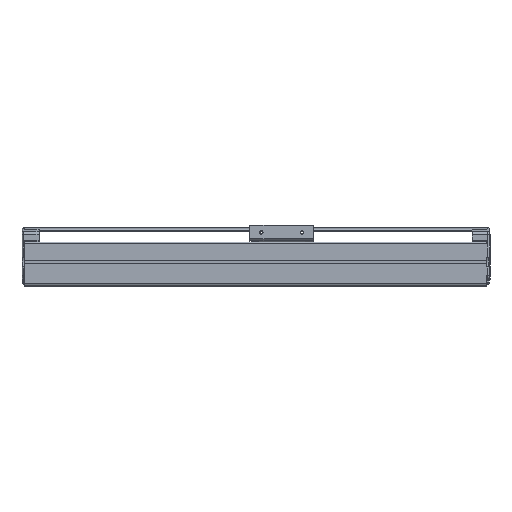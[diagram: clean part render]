
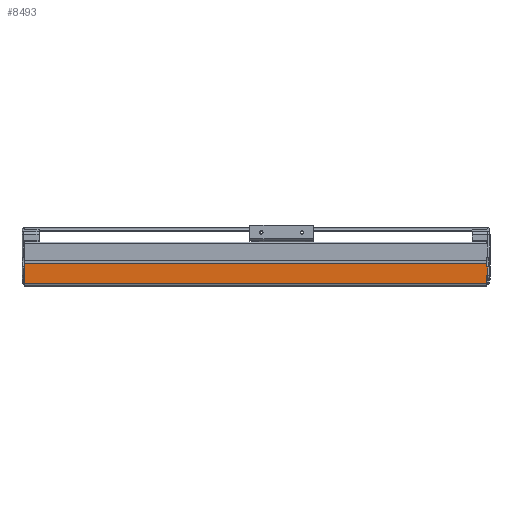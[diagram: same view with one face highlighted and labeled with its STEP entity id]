
A CAD part, top view. The second image highlights one B-rep face of the part: STEP entity #8493.
In plain terms, the highlighted planar face has unit normal (0, 0, 1).
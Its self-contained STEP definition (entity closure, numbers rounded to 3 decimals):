
#911=DIRECTION('',(0.,1.,0.));
#912=VECTOR('',#911,11.);
#913=CARTESIAN_POINT('',(569.,14.,39.));
#914=LINE('',#913,#912);
#930=DIRECTION('',(1.,0.,0.));
#931=VECTOR('',#930,1.);
#932=CARTESIAN_POINT('',(568.,14.,39.));
#933=LINE('',#932,#931);
#938=DIRECTION('',(0.,1.,0.));
#939=VECTOR('',#938,3.9);
#940=CARTESIAN_POINT('',(568.,25.,39.));
#941=LINE('',#940,#939);
#942=DIRECTION('',(0.,1.,0.));
#943=VECTOR('',#942,9.5);
#944=CARTESIAN_POINT('',(568.,4.5,39.));
#945=LINE('',#944,#943);
#946=DIRECTION('',(0.,-1.,0.));
#947=VECTOR('',#946,24.4);
#948=CARTESIAN_POINT('',(0.,28.9,39.));
#949=LINE('',#948,#947);
#959=DIRECTION('',(-1.,0.,0.));
#960=VECTOR('',#959,1.);
#961=CARTESIAN_POINT('',(569.,25.,39.));
#962=LINE('',#961,#960);
#984=DIRECTION('',(1.,0.,0.));
#985=VECTOR('',#984,568.);
#986=CARTESIAN_POINT('',(0.,4.5,39.));
#987=LINE('',#986,#985);
#5199=DIRECTION('',(-1.,0.,0.));
#5200=VECTOR('',#5199,568.);
#5201=CARTESIAN_POINT('',(568.,28.9,39.));
#5202=LINE('',#5201,#5200);
#5911=CARTESIAN_POINT('',(0.,4.5,39.));
#5912=VERTEX_POINT('',#5911);
#5913=CARTESIAN_POINT('',(0.,28.9,39.));
#5914=VERTEX_POINT('',#5913);
#6027=CARTESIAN_POINT('',(568.,28.9,39.));
#6028=VERTEX_POINT('',#6027);
#6030=CARTESIAN_POINT('',(568.,4.5,39.));
#6032=VERTEX_POINT('',#6030);
#6659=CARTESIAN_POINT('',(569.,25.,39.));
#6660=VERTEX_POINT('',#6659);
#6663=CARTESIAN_POINT('',(569.,14.,39.));
#6664=VERTEX_POINT('',#6663);
#6945=CARTESIAN_POINT('',(568.,14.,39.));
#6947=VERTEX_POINT('',#6945);
#6979=CARTESIAN_POINT('',(568.,25.,39.));
#6981=VERTEX_POINT('',#6979);
#8474=CARTESIAN_POINT('',(284.,16.7,39.));
#8475=DIRECTION('',(0.,0.,1.));
#8476=DIRECTION('',(0.,-1.,0.));
#8477=AXIS2_PLACEMENT_3D('',#8474,#8475,#8476);
#8478=PLANE('',#8477);
#8479=ORIENTED_EDGE('',*,*,#8133,.F.);
#8481=ORIENTED_EDGE('',*,*,#8480,.F.);
#8482=ORIENTED_EDGE('',*,*,#8429,.F.);
#8483=ORIENTED_EDGE('',*,*,#8466,.F.);
#8484=ORIENTED_EDGE('',*,*,#8251,.F.);
#8486=ORIENTED_EDGE('',*,*,#8485,.F.);
#8488=ORIENTED_EDGE('',*,*,#8487,.F.);
#8490=ORIENTED_EDGE('',*,*,#8489,.F.);
#8491=EDGE_LOOP('',(#8479,#8481,#8482,#8483,#8484,#8486,#8488,#8490));
#8492=FACE_OUTER_BOUND('',#8491,.F.);
#8493=ADVANCED_FACE('',(#8492),#8478,.T.);
#8133=EDGE_CURVE('',#6981,#6028,#941,.T.);
#8251=EDGE_CURVE('',#6032,#6947,#945,.T.);
#8429=EDGE_CURVE('',#6664,#6660,#914,.T.);
#8466=EDGE_CURVE('',#6947,#6664,#933,.T.);
#8480=EDGE_CURVE('',#6660,#6981,#962,.T.);
#8485=EDGE_CURVE('',#5912,#6032,#987,.T.);
#8487=EDGE_CURVE('',#5914,#5912,#949,.T.);
#8489=EDGE_CURVE('',#6028,#5914,#5202,.T.);
